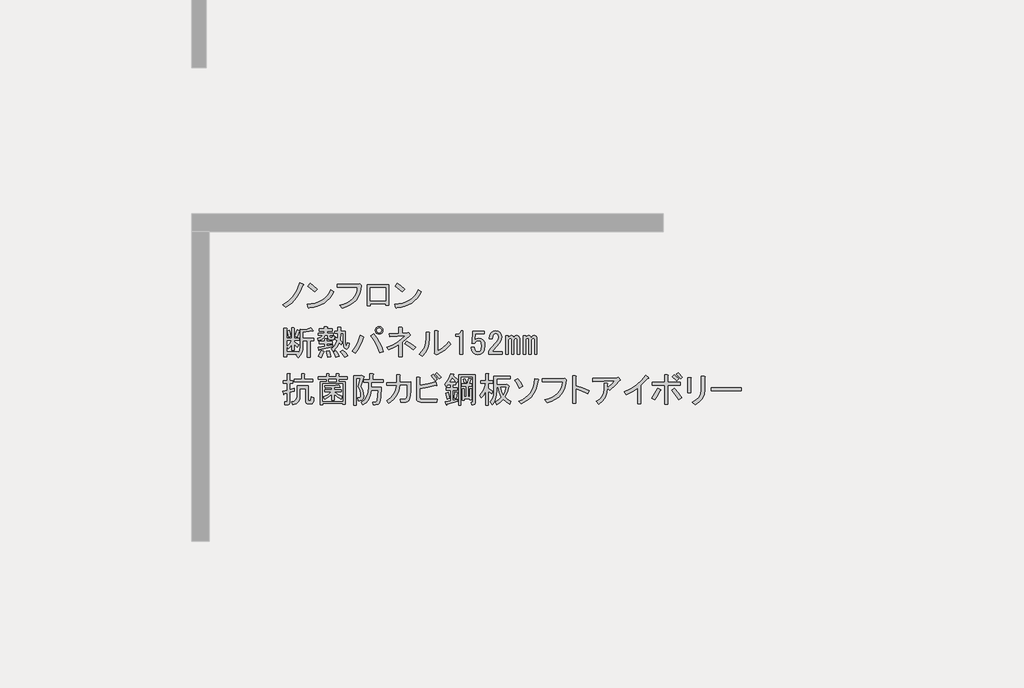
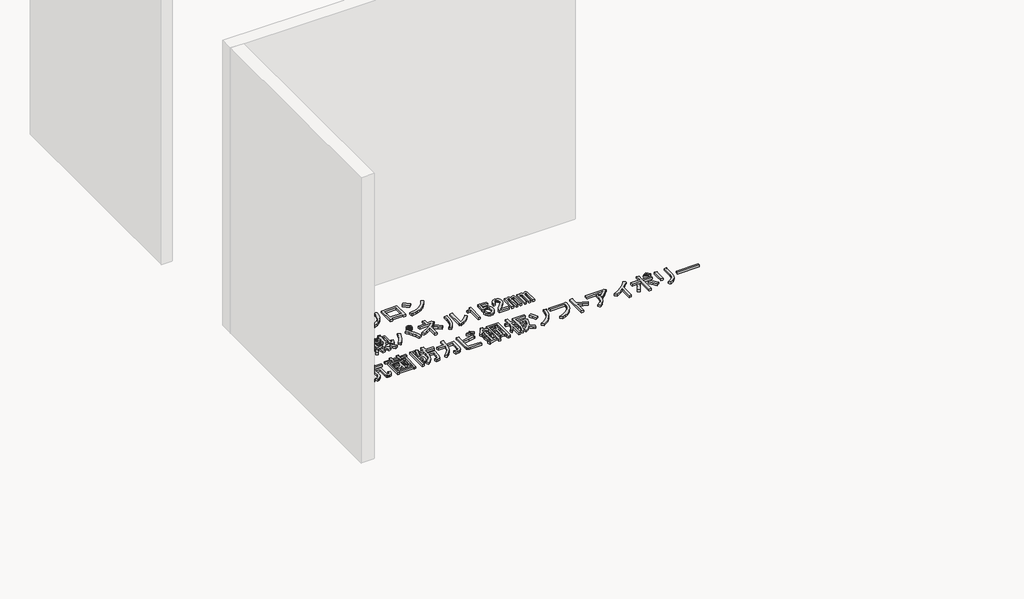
# One storey, part 19 of 117: 1 proxy.
"""IFC4 building model written with IfcOpenShell, lengths in millimetres."""

from ifc_helpers import new_model, si_unit, frame, origin, place, context, project, spatial, polyline, outline, extrude, element, save

model = new_model("IFC4")

# Units and contexts
model_context = context("Model", 3, world=origin())
ifc_project = project(units=[si_unit("LENGTHUNIT", "METRE", prefix="MILLI")], contexts=[model_context])

# Site, building, storey
site = spatial("IfcSite", under=ifc_project)
building = spatial("IfcBuilding", under=site)
storey = spatial("IfcBuildingStorey", under=building, Name="レベル 1", Elevation=500.0)

# Proxy
placement = place(None, origin())
element("IfcBuildingElementProxy", 1, Name="200㎜\u3000MS Pゴシック", ObjectType="200㎜\u3000MS Pゴシック", at=placement, inside=storey, context=model_context, shape_type="SweptSolid", body=[
    extrude(outline(polyline([(-7056.3293015, -12607.0496882), (-7081.9047498, -12666.8215225), (-7110.353844, -12712.7998566), (-7152.0217093, -12758.2034615), (-7201.1610538, -12795.560858), (-7228.7480543, -12773.7211493), (-7181.0455327, -12743.2605029), (-7141.3892195, -12704.7536481), (-7124.0036619, -12680.8305462), (-7108.6296565, -12652.7406577), (-7095.2672031, -12620.4839827), (-7083.9163019, -12584.0605212), (-7052.8809264, -12597.8540214), (-7049.7199159, -12602.4518548), (-7056.3293015, -12607.0496882)])), frame((0.0, 0.0, 500.0), z_axis=(0.0, 0.0, 1.0), x_axis=(1.0, 0.0, 0.0)), (0.0, 0.0, 1.0), 25.0),
    extrude(outline(polyline([(-6956.6022948, -12662.2236891), (-7015.2246708, -12615.0958967), (-6995.6838788, -12590.9572713), (-6968.3842429, -12610.7854279), (-6934.7625862, -12640.3839804), (-6956.6022948, -12662.2236891)])), frame((0.0, 0.0, 500.0), z_axis=(0.0, 0.0, 1.0), x_axis=(1.0, 0.0, 0.0)), (0.0, 0.0, 1.0), 25.0),
    extrude(outline(polyline([(-6794.5286672, -12662.2236891), (-6811.052131, -12691.965924), (-6830.1618761, -12717.9724192), (-6851.8579025, -12740.2431748), (-6876.1402102, -12758.7781907), (-6903.0087992, -12773.577467), (-6932.4636694, -12784.6410036), (-6964.504821, -12791.9688006), (-6999.1322539, -12795.560858), (-7004.8795456, -12803.6070664), (-7010.6268374, -12797.8597747), (-7019.8225042, -12767.9738575), (-6983.9917321, -12765.2977748), (-6951.2142088, -12758.9937141), (-6921.4899342, -12749.0616756), (-6894.8189084, -12735.5016591), (-6871.2011313, -12718.3136646), (-6850.636603, -12697.4976923), (-6833.1253234, -12673.053742), (-6818.6672926, -12644.9818138), (-6794.5286672, -12662.2236891)])), frame((0.0, 0.0, 500.0), z_axis=(0.0, 0.0, 1.0), x_axis=(1.0, 0.0, 0.0)), (0.0, 0.0, 1.0), 25.0),
    extrude(outline(polyline([(-6743.7685864, -12777.1695243), (-6709.985287, -12767.4889298), (-6680.4765359, -12755.1142922), (-6655.242333, -12740.0456116), (-6634.2826783, -12722.282888), (-6617.597572, -12701.8261214), (-6605.1870138, -12678.6753118), (-6597.0510039, -12652.8304591), (-6593.1895423, -12624.2915635), (-6765.6082951, -12624.2915635), (-6765.6082951, -12599.0034798), (-6590.8906256, -12599.0034798), (-6574.7982086, -12595.5551047), (-6562.1541668, -12607.0496882), (-6565.674383, -12643.5449909), (-6573.9361149, -12676.5919185), (-6586.9393625, -12706.1904711), (-6604.6841258, -12732.3406486), (-6627.1704048, -12755.042451), (-6654.3981995, -12774.2958784), (-6686.3675099, -12790.1009308), (-6723.078336, -12802.4576081), (-6743.7685864, -12777.1695243)])), frame((0.0, 0.0, 500.0), z_axis=(0.0, 0.0, 1.0), x_axis=(1.0, 0.0, 0.0)), (0.0, 0.0, 1.0), 25.0),
    extrude(outline(polyline([(-6329.044013, -12776.020066), (-6355.4815551, -12776.020066), (-6355.4815551, -12763.3760241), (-6483.0714321, -12763.3760241), (-6483.0714321, -12781.7673577), (-6509.5089742, -12781.7673577), (-6509.5089742, -12602.4518548), (-6329.044013, -12602.4518548), (-6329.044013, -12776.020066)]), holes=[polyline([(-6483.0714321, -12627.7399386), (-6483.0714321, -12738.0879404), (-6355.4815551, -12738.0879404), (-6355.4815551, -12627.7399386), (-6483.0714321, -12627.7399386)])]), frame((0.0, 0.0, 500.0), z_axis=(0.0, 0.0, 1.0), x_axis=(1.0, 0.0, 0.0)), (0.0, 0.0, 1.0), 25.0),
    extrude(outline(polyline([(-6052.9900951, -12662.2236891), (-6069.5135589, -12691.965924), (-6088.623304, -12717.9724192), (-6110.3193304, -12740.2431748), (-6134.6016381, -12758.7781907), (-6161.4702271, -12773.577467), (-6190.9250974, -12784.6410036), (-6222.9662489, -12791.9688006), (-6257.5936818, -12795.560858), (-6263.3409736, -12803.6070664), (-6269.0882653, -12797.8597747), (-6278.2839321, -12767.9738575), (-6242.4531601, -12765.2977748), (-6209.6756367, -12758.9937141), (-6179.9513622, -12749.0616756), (-6153.2803363, -12735.5016591), (-6129.6625593, -12718.3136646), (-6109.0980309, -12697.4976923), (-6091.5867514, -12673.053742), (-6077.1287205, -12644.9818138), (-6052.9900951, -12662.2236891)])), frame((0.0, 0.0, 500.0), z_axis=(0.0, 0.0, 1.0), x_axis=(1.0, 0.0, 0.0)), (0.0, 0.0, 1.0), 25.0),
    extrude(outline(polyline([(-6215.0637228, -12662.2236891), (-6273.6860987, -12615.0958967), (-6254.1453067, -12590.9572713), (-6226.8456709, -12610.7854279), (-6193.2240141, -12640.3839804), (-6215.0637228, -12662.2236891)])), frame((0.0, 0.0, 500.0), z_axis=(0.0, 0.0, 1.0), x_axis=(1.0, 0.0, 0.0)), (0.0, 0.0, 1.0), 25.0),
    extrude(outline(polyline([(-7122.9978859, -13039.2345221), (-7105.7560106, -12986.3594379), (-7085.0657603, -12992.1067296), (-7083.3415727, -12995.2677401), (-7087.364677, -12997.8540214), (-7104.6065523, -13046.1312722), (-7122.9978859, -13039.2345221)])), frame((0.0, 0.0, 500.0), z_axis=(0.0, 0.0, 1.0), x_axis=(1.0, 0.0, 0.0)), (0.0, 0.0, 1.0), 25.0),
    extrude(outline(polyline([(-6968.9704667, -12990.9572713), (-6970.6946542, -12995.5551047), (-6978.1661335, -12993.256188), (-7055.1798431, -13005.9002299), (-7055.1798431, -13055.326939), (-6963.2231749, -13055.326939), (-6963.2231749, -13077.1666477), (-6994.2585505, -13077.1666477), (-6994.2585505, -13217.4005666), (-7017.2477175, -13217.4005666), (-7017.2477175, -13077.1666477), (-7055.1798431, -13077.1666477), (-7055.1798431, -13126.5933568), (-7057.7661244, -13154.3958807), (-7065.5249683, -13179.1810764), (-7078.4563747, -13200.948944), (-7096.5603438, -13219.6994833), (-7113.8022191, -13200.1586914), (-7103.4570939, -13190.9630245), (-7193.1148454, -13190.9630245), (-7193.1148454, -13212.8027332), (-7216.1040124, -13212.8027332), (-7216.1040124, -12973.715396), (-7194.2643037, -12973.715396), (-7189.3791057, -12976.0143127), (-7193.1148454, -12980.6121461), (-7193.1148454, -13056.4763974), (-7150.5848863, -13056.4763974), (-7150.5848863, -12969.1175626), (-7132.1935527, -12969.1175626), (-7127.3083547, -12971.4164793), (-7131.0440943, -12976.0143127), (-7131.0440943, -13056.4763974), (-7087.364677, -13056.4763974), (-7087.364677, -13074.867731), (-7131.0440943, -13074.867731), (-7131.0440943, -13084.0633978), (-7090.813052, -13110.5009399), (-7104.6065523, -13132.3406486), (-7131.0440943, -13105.9031065), (-7131.0440943, -13158.7781907), (-7150.5848863, -13158.7781907), (-7150.5848863, -13110.5009399), (-7163.8036574, -13130.3290965), (-7178.1718868, -13146.1341488), (-7190.8159287, -13127.7428152), (-7168.97622, -13103.6041898), (-7151.7343447, -13074.867731), (-7193.1148454, -13074.867731), (-7193.1148454, -13169.1233159), (-7095.4108854, -13169.1233159), (-7095.4108854, -13182.9168161), (-7082.479479, -13158.7781907), (-7078.1690102, -13125.4438985), (-7078.1690102, -12980.6121461), (-7056.3293015, -12986.3594379), (-7020.1213634, -12978.8879586), (-6989.660717, -12965.6691875), (-6968.9704667, -12990.9572713)])), frame((0.0, 0.0, 500.0), z_axis=(0.0, 0.0, 1.0), x_axis=(1.0, 0.0, 0.0)), (0.0, 0.0, 1.0), 25.0),
    extrude(outline(polyline([(-7177.0224284, -13047.2807305), (-7189.6664703, -12996.7045631), (-7170.1256783, -12989.8078129), (-7162.3668344, -13013.9464383), (-7157.4816364, -13040.3839804), (-7177.0224284, -13047.2807305)])), frame((0.0, 0.0, 500.0), z_axis=(0.0, 0.0, 1.0), x_axis=(1.0, 0.0, 0.0)), (0.0, 0.0, 1.0), 25.0),
    extrude(outline(polyline([(-6878.1632569, -13167.9738575), (-6874.7148818, -13172.8590555), (-6880.4621736, -13176.020066), (-6890.2325696, -13201.5955143), (-6901.1524239, -13220.8489417), (-6924.141591, -13209.3543582), (-6911.4975491, -13185.790462), (-6901.1524239, -13158.7781907), (-6878.1632569, -13167.9738575)])), frame((0.0, 0.0, 500.0), z_axis=(0.0, 0.0, 1.0), x_axis=(1.0, 0.0, 0.0)), (0.0, 0.0, 1.0), 25.0),
    extrude(outline(polyline([(-6833.3343812, -13163.3760241), (-6823.2766206, -13190.67566), (-6818.3914226, -13212.8027332), (-6847.1278814, -13218.550025), (-6849.7141627, -13196.9976809), (-6857.4730066, -13166.8243992), (-6833.3343812, -13163.3760241)])), frame((0.0, 0.0, 500.0), z_axis=(0.0, 0.0, 1.0), x_axis=(1.0, 0.0, 0.0)), (0.0, 0.0, 1.0), 25.0),
    extrude(outline(polyline([(-6718.388546, -13157.6287323), (-6693.6751914, -13178.8937119), (-6674.7091286, -13203.6070664), (-6701.1466707, -13218.550025), (-6720.4000981, -13188.9514724), (-6739.0787963, -13169.1233159), (-6718.388546, -13157.6287323)])), frame((0.0, 0.0, 500.0), z_axis=(0.0, 0.0, 1.0), x_axis=(1.0, 0.0, 0.0)), (0.0, 0.0, 1.0), 25.0),
    extrude(outline(polyline([(-6777.0109219, -13216.2511083), (-6785.344495, -13191.5377537), (-6798.8506306, -13170.2727742), (-6778.1603803, -13162.2265657), (-6761.2058696, -13183.7789098), (-6749.4239215, -13207.0554415), (-6777.0109219, -13216.2511083)])), frame((0.0, 0.0, 500.0), z_axis=(0.0, 0.0, 1.0), x_axis=(1.0, 0.0, 0.0)), (0.0, 0.0, 1.0), 25.0),
    extrude(outline(polyline([(-6916.0953825, -13153.0308989), (-6918.1069346, -13157.9160969), (-6921.8426743, -13156.479274), (-6927.589966, -13132.3406486), (-6872.4159651, -13124.2944401), (-6872.4159651, -13101.3052731), (-6916.0953825, -13101.3052731), (-6916.0953825, -13082.9139395), (-6872.4159651, -13082.9139395), (-6872.4159651, -13059.9247724), (-6854.0246315, -13059.9247724), (-6849.1394335, -13062.2236891), (-6852.8751732, -13066.8215225), (-6852.8751732, -13082.9139395), (-6808.0462974, -13082.9139395), (-6808.0462974, -13101.3052731), (-6852.8751732, -13101.3052731), (-6852.8751732, -13120.8460651), (-6802.2990057, -13111.6503983), (-6802.2990057, -13127.7428152), (-6916.0953825, -13153.0308989)])), frame((0.0, 0.0, 500.0), z_axis=(0.0, 0.0, 1.0), x_axis=(1.0, 0.0, 0.0)), (0.0, 0.0, 1.0), 25.0),
    extrude(outline(polyline([(-6845.978423, -13031.1883136), (-6871.2665068, -13031.1883136), (-6875.8643402, -13048.6457123), (-6886.2094654, -13061.9363245), (-6902.3018823, -13071.0601502), (-6924.141591, -13076.0171893), (-6928.7394244, -13056.4763974), (-6903.4513406, -13047.8554597), (-6895.9798614, -13040.5276627), (-6891.9567571, -13031.1883136), (-6927.589966, -13031.1883136), (-6927.589966, -13012.79698), (-6873.5654235, -13012.79698), (-6873.5654235, -12995.5551047), (-6917.2448409, -12995.5551047), (-6917.2448409, -12977.1637711), (-6873.5654235, -12977.1637711), (-6873.5654235, -12958.7724374), (-6851.7257148, -12958.7724374), (-6846.8405168, -12961.0713541), (-6850.5762564, -12965.6691875), (-6850.5762564, -12977.1637711), (-6808.0462974, -12977.1637711), (-6808.0462974, -12995.5551047), (-6850.5762564, -12995.5551047), (-6850.5762564, -13012.79698), (-6797.7011723, -13012.79698), (-6797.7011723, -13031.1883136), (-6826.4376311, -13031.1883136), (-6826.4376311, -13043.8323555), (-6825.0008081, -13049.0049181), (-6820.6903393, -13050.7291056), (-6810.3452141, -13050.7291056), (-6806.6094745, -13047.5680951), (-6806.8968391, -13038.0850637), (-6787.3560471, -13040.3839804), (-6790.229693, -13061.9363245), (-6795.5459378, -13067.3244106), (-6803.448464, -13069.1204392), (-6827.5870894, -13069.1204392), (-6841.3805896, -13064.2352412), (-6845.978423, -13049.5796472), (-6845.978423, -13031.1883136)])), frame((0.0, 0.0, 500.0), z_axis=(0.0, 0.0, 1.0), x_axis=(1.0, 0.0, 0.0)), (0.0, 0.0, 1.0), 25.0),
    extrude(outline(polyline([(-6714.9401709, -13013.9464383), (-6736.7798796, -13013.9464383), (-6741.377713, -13071.4193559), (-6721.836921, -13089.8106896), (-6732.1820462, -13111.6503983), (-6748.2744631, -13095.5579813), (-6767.5278905, -13133.2027424), (-6797.7011723, -13165.6749408), (-6814.9430475, -13144.9846905), (-6799.8564067, -13133.0590601), (-6786.7813179, -13117.9724192), (-6775.7177813, -13099.7247679), (-6766.6657967, -13078.316106), (-6783.907672, -13063.3731475), (-6775.8614636, -13046.1312722), (-6762.0679633, -13056.4763974), (-6759.7690466, -13013.9464383), (-6787.3560471, -13013.9464383), (-6787.3560471, -12995.5551047), (-6759.7690466, -12995.5551047), (-6759.7690466, -12961.0713541), (-6737.9293379, -12961.0713541), (-6733.04414, -12963.3702708), (-6736.7798796, -12967.9681043), (-6736.7798796, -12995.5551047), (-6695.3993789, -12995.5551047), (-6695.3993789, -13092.1096063), (-6691.9510039, -13116.2482317), (-6688.7181523, -13118.2597838), (-6685.9163475, -13115.0987733), (-6681.6058787, -13093.2590646), (-6662.0650867, -13100.1558147), (-6666.591079, -13126.9525626), (-6674.421764, -13142.9731384), (-6685.5571418, -13148.2175421), (-6699.9972123, -13142.6857738), (-6706.5347567, -13135.3579768), (-6711.2044313, -13123.719711), (-6714.9401709, -13087.5117729), (-6714.9401709, -13013.9464383)])), frame((0.0, 0.0, 500.0), z_axis=(0.0, 0.0, 1.0), x_axis=(1.0, 0.0, 0.0)), (0.0, 0.0, 1.0), 25.0),
    extrude(outline(polyline([(-6456.3120417, -13016.245355), (-6429.6589762, -13052.9561812), (-6407.1726971, -13090.6727833), (-6388.8532047, -13129.3951616), (-6374.7004987, -13169.1233159), (-6405.7358742, -13179.468441), (-6421.1817208, -13136.3637528), (-6438.7828018, -13097.856898), (-6458.5391173, -13063.9478766), (-6480.4506671, -13034.6366887), (-6456.3120417, -13016.245355)])), frame((0.0, 0.0, 500.0), z_axis=(0.0, 0.0, 1.0), x_axis=(1.0, 0.0, 0.0)), (0.0, 0.0, 1.0), 25.0),
    extrude(outline(polyline([(-6543.6708765, -13042.6828971), (-6539.6477722, -13048.1428243), (-6545.9697932, -13053.0280223), (-6557.8954236, -13088.4457078), (-6572.9820644, -13122.282888), (-6591.2297158, -13154.539563), (-6612.6383776, -13185.2157328), (-6639.0759197, -13167.9738575), (-6615.8712292, -13136.5074351), (-6596.8333252, -13103.0294606), (-6581.9622078, -13067.539934), (-6571.2578769, -13030.0388553), (-6543.6708765, -13042.6828971)])), frame((0.0, 0.0, 500.0), z_axis=(0.0, 0.0, 1.0), x_axis=(1.0, 0.0, 0.0)), (0.0, 0.0, 1.0), 25.0),
    extrude(outline(polyline([(-6410.3337076, -13021.9926468), (-6422.9777495, -13019.6937301), (-6433.3228747, -13012.79698), (-6440.2196248, -13002.4518548), (-6442.5185415, -12989.8078129), (-6440.2196248, -12977.1637711), (-6433.3228747, -12966.8186459), (-6422.9777495, -12959.9218958), (-6410.3337076, -12957.6229791), (-6397.6896657, -12959.9218958), (-6387.3445406, -12966.8186459), (-6380.4477905, -12977.1637711), (-6378.1488738, -12989.8078129), (-6380.4477905, -13002.4518548), (-6387.3445406, -13012.79698), (-6397.6896657, -13019.6937301), (-6410.3337076, -13021.9926468)]), holes=[polyline([(-6410.3337076, -13010.4980633), (-6402.0001346, -13009.0612403), (-6395.390749, -13004.7507715), (-6391.0802802, -12998.141386), (-6389.6434573, -12989.8078129), (-6391.0802802, -12981.4742399), (-6395.390749, -12974.8648544), (-6402.0001346, -12970.5543855), (-6410.3337076, -12969.1175626), (-6418.6672807, -12970.5543855), (-6425.2766662, -12974.8648544), (-6429.587135, -12981.4742399), (-6431.023958, -12989.8078129), (-6429.587135, -12998.141386), (-6425.2766662, -13004.7507715), (-6418.6672807, -13009.0612403), (-6410.3337076, -13010.4980633)])]), frame((0.0, 0.0, 500.0), z_axis=(0.0, 0.0, 1.0), x_axis=(1.0, 0.0, 0.0)), (0.0, 0.0, 1.0), 25.0),
    extrude(outline(polyline([(-6120.6702029, -13155.3298156), (-6157.7402348, -13126.0186277), (-6190.7871624, -13104.7536481), (-6173.5452871, -13082.9139395), (-6134.7510677, -13106.1904711), (-6101.1294109, -13132.3406486), (-6120.6702029, -13155.3298156)])), frame((0.0, 0.0, 500.0), z_axis=(0.0, 0.0, 1.0), x_axis=(1.0, 0.0, 0.0)), (0.0, 0.0, 1.0), 25.0),
    extrude(outline(polyline([(-6166.648537, -13011.6475216), (-6159.7517869, -13009.3486049), (-6147.107745, -13026.5904802), (-6145.9582866, -13032.6251366), (-6151.7055784, -13034.6366887), (-6214.9257878, -13090.9601479), (-6214.9257878, -13211.6532749), (-6241.3633299, -13211.6532749), (-6241.3633299, -13109.3514816), (-6281.5943722, -13133.4901069), (-6326.4232479, -13155.3298156), (-6345.9640399, -13134.6395653), (-6300.4167527, -13115.1706145), (-6259.1799343, -13092.3969709), (-6222.2535848, -13066.3186345), (-6189.637704, -13036.9356054), (-6319.5264978, -13042.6828971), (-6322.9748729, -13017.3948134), (-6241.3633299, -13015.0958967), (-6241.3633299, -12963.3702708), (-6218.3741628, -12963.3702708), (-6212.3395065, -12966.8186459), (-6214.9257878, -12972.5659377), (-6214.9257878, -13013.9464383), (-6166.648537, -13011.6475216)])), frame((0.0, 0.0, 500.0), z_axis=(0.0, 0.0, 1.0), x_axis=(1.0, 0.0, 0.0)), (0.0, 0.0, 1.0), 25.0),
    extrude(outline(polyline([(-6067.703162, -13193.2619413), (-6042.5587606, -13164.0225944), (-6024.5984738, -13131.4785548), (-6013.8223018, -13095.6298225), (-6010.2302444, -13056.4763974), (-6010.2302444, -13004.7507715), (-5986.091619, -13004.7507715), (-5980.3443273, -13008.1991466), (-5983.7927023, -13013.9464383), (-5983.7927023, -13055.326939), (-5987.6002831, -13101.0897496), (-5999.0230255, -13141.82368), (-6018.0609295, -13177.5287301), (-6044.713995, -13208.2048998), (-6067.703162, -13193.2619413)])), frame((0.0, 0.0, 500.0), z_axis=(0.0, 0.0, 1.0), x_axis=(1.0, 0.0, 0.0)), (0.0, 0.0, 1.0), 25.0),
    extrude(outline(polyline([(-5913.6757429, -13162.2265657), (-5888.8905471, -13150.0135708), (-5865.1111275, -13132.9153778), (-5842.3374839, -13110.9319868), (-5820.5696163, -13084.0633978), (-5804.4771994, -13105.9031065), (-5827.753731, -13133.7056304), (-5853.9039086, -13157.3413678), (-5882.9277319, -13176.8103186), (-5914.8252012, -13192.1124829), (-5924.020868, -13196.7103163), (-5942.4122017, -13182.9168161), (-5940.113285, -13177.1695243), (-5940.113285, -12992.1067296), (-5915.9746596, -12992.1067296), (-5910.2273678, -12995.5551047), (-5913.6757429, -13001.3023965), (-5913.6757429, -13162.2265657)])), frame((0.0, 0.0, 500.0), z_axis=(0.0, 0.0, 1.0), x_axis=(1.0, 0.0, 0.0)), (0.0, 0.0, 1.0), 25.0),
    extrude(outline(polyline([(-5725.1645731, -13015.0958967), (-5717.1183647, -13004.1760423), (-5713.6699896, -12992.1067296), (-5699.8764894, -12992.1067296), (-5699.8764894, -13190.9630245), (-5726.3140315, -13190.9630245), (-5726.3140315, -13038.0850637), (-5760.797782, -13038.0850637), (-5760.797782, -13024.2915635), (-5750.4526569, -13024.2915635), (-5736.0844275, -13021.9926468), (-5725.1645731, -13015.0958967)])), frame((0.0, 0.0, 500.0), z_axis=(0.0, 0.0, 1.0), x_axis=(1.0, 0.0, 0.0)), (0.0, 0.0, 1.0), 25.0),
    extrude(outline(polyline([(-5615.9660297, -12995.5551047), (-5517.1126114, -12995.5551047), (-5517.1126114, -13017.3948134), (-5594.126321, -13017.3948134), (-5594.126321, -13020.8431884), (-5597.5746961, -13063.3731475), (-5598.7241544, -13070.2698976), (-5583.2064667, -13059.9247724), (-5566.5393205, -13056.4763974), (-5545.5617056, -13060.212137), (-5528.6071949, -13071.4193559), (-5516.5378822, -13091.2475125), (-5512.514778, -13118.5471484), (-5517.6873406, -13153.0308989), (-5524.1530438, -13166.8243992), (-5533.2050283, -13178.3189827), (-5551.3089974, -13190.3882954), (-5573.4360707, -13194.4113996), (-5594.4136856, -13190.67566), (-5611.3681963, -13179.468441), (-5623.437509, -13160.7897428), (-5629.7595299, -13134.6395653), (-5603.3219878, -13134.6395653), (-5599.2988836, -13153.3182635), (-5591.8274043, -13165.6749408), (-5584.0685604, -13170.8475034), (-5574.585529, -13172.5716909), (-5562.2288517, -13170.5601388), (-5552.7458203, -13164.5254825), (-5543.2627889, -13147.5709718), (-5540.1017785, -13121.9955234), (-5542.6880597, -13097.856898), (-5550.4469036, -13082.9139395), (-5557.9183829, -13077.7413769), (-5566.5393205, -13076.0171893), (-5579.470727, -13078.6034706), (-5590.6779459, -13086.3623145), (-5599.8736128, -13096.7074397), (-5622.8627798, -13096.7074397), (-5621.7133214, -13088.6612312), (-5615.9660297, -13000.1529381), (-5615.9660297, -12995.5551047)])), frame((0.0, 0.0, 500.0), z_axis=(0.0, 0.0, 1.0), x_axis=(1.0, 0.0, 0.0)), (0.0, 0.0, 1.0), 25.0),
    extrude(outline(polyline([(-5478.0310274, -13062.2236891), (-5473.433194, -13030.900949), (-5459.6396938, -13008.1991466), (-5443.2599123, -12996.9919276), (-5424.0064849, -12993.256188), (-5401.3046824, -12996.9919276), (-5383.7754426, -13008.1991466), (-5372.5682236, -13024.8662927), (-5368.832484, -13044.9818138), (-5373.1429528, -13070.8446268), (-5386.0743593, -13093.2590646), (-5419.4086515, -13131.1911902), (-5437.7999851, -13151.8814406), (-5451.5934853, -13170.2727742), (-5365.3841089, -13170.2727742), (-5365.3841089, -13192.1124829), (-5482.6288608, -13192.1124829), (-5482.6288608, -13172.5716909), (-5476.5942045, -13158.7781907), (-5463.0880689, -13140.3868571), (-5415.9602764, -13088.6612312), (-5401.3046824, -13067.3962517), (-5396.4194844, -13044.9818138), (-5398.7184011, -13032.337772), (-5405.6151513, -13021.9926468), (-5413.3739951, -13016.8200842), (-5422.8570265, -13015.0958967), (-5431.4779642, -13016.8200842), (-5438.9494435, -13021.9926468), (-5448.4324749, -13038.3724283), (-5451.5934853, -13062.2236891), (-5478.0310274, -13062.2236891)])), frame((0.0, 0.0, 500.0), z_axis=(0.0, 0.0, 1.0), x_axis=(1.0, 0.0, 0.0)), (0.0, 0.0, 1.0), 25.0),
    extrude(outline(polyline([(-5094.1119379, -13032.337772), (-5085.7783648, -13033.7745949), (-5079.1689793, -13038.0850637), (-5073.9964167, -13046.7060014), (-5072.2722292, -13058.7753141), (-5072.2722292, -13193.2619413), (-5091.8130212, -13193.2619413), (-5091.8130212, -13069.1204392), (-5094.3993024, -13059.6374078), (-5102.1581463, -13056.4763974), (-5112.5032715, -13061.0742308), (-5118.5379278, -13069.6951684), (-5120.54948, -13079.4655644), (-5120.54948, -13193.2619413), (-5140.0902719, -13193.2619413), (-5140.0902719, -13069.1204392), (-5142.6765532, -13059.6374078), (-5150.4353971, -13056.4763974), (-5160.7805223, -13061.0742308), (-5166.8151786, -13069.6951684), (-5168.8267307, -13079.4655644), (-5168.8267307, -13193.2619413), (-5188.3675227, -13193.2619413), (-5188.3675227, -13035.786147), (-5168.8267307, -13035.786147), (-5168.8267307, -13053.0280223), (-5156.757418, -13037.5103346), (-5143.538647, -13032.337772), (-5134.3429802, -13033.7745949), (-5127.4462301, -13038.0850637), (-5120.54948, -13051.878564), (-5107.6180735, -13037.22297), (-5094.1119379, -13032.337772)])), frame((0.0, 0.0, 500.0), z_axis=(0.0, 0.0, 1.0), x_axis=(1.0, 0.0, 0.0)), (0.0, 0.0, 1.0), 25.0),
    extrude(outline(polyline([(-5315.9573998, -13193.2619413), (-5335.4981918, -13193.2619413), (-5335.4981918, -13035.786147), (-5315.9573998, -13035.786147), (-5315.9573998, -13053.0280223), (-5303.8880871, -13037.5103346), (-5290.6693161, -13032.337772), (-5281.4736492, -13033.7745949), (-5274.5768991, -13038.0850637), (-5267.680149, -13051.878564), (-5254.7487426, -13037.22297), (-5241.2426069, -13032.337772), (-5232.9090339, -13033.7745949), (-5226.2996483, -13038.0850637), (-5221.1270858, -13046.7060014), (-5219.4028982, -13058.7753141), (-5219.4028982, -13193.2619413), (-5238.9436902, -13193.2619413), (-5238.9436902, -13069.1204392), (-5241.5299715, -13059.6374078), (-5249.2888154, -13056.4763974), (-5259.6339406, -13061.0742308), (-5265.6685969, -13069.6951684), (-5267.680149, -13079.4655644), (-5267.680149, -13193.2619413), (-5287.220941, -13193.2619413), (-5287.220941, -13069.1204392), (-5289.8072223, -13059.6374078), (-5297.5660662, -13056.4763974), (-5307.9111913, -13061.0742308), (-5313.9458477, -13069.6951684), (-5315.9573998, -13079.4655644), (-5315.9573998, -13193.2619413)])), frame((0.0, 0.0, 500.0), z_axis=(0.0, 0.0, 1.0), x_axis=(1.0, 0.0, 0.0)), (0.0, 0.0, 1.0), 25.0),
    extrude(outline(polyline([(-7010.3509674, -13461.0742308), (-7010.3509674, -13577.1695243), (-7008.3394153, -13584.0662744), (-7002.3047589, -13586.3651911), (-6995.4080088, -13586.3651911), (-6990.8101754, -13584.0662744), (-6988.5112587, -13577.1695243), (-6986.212342, -13554.1803573), (-6962.0737166, -13562.2265657), (-6964.3726333, -13585.2157328), (-6966.67155, -13596.7821575), (-6971.2693834, -13605.0438894), (-6978.1661335, -13610.0009285), (-6987.3618003, -13611.6532749), (-7009.201509, -13611.6532749), (-7019.7621576, -13610.3601342), (-7027.3054781, -13606.4807123), (-7031.8314703, -13600.0150091), (-7033.3401344, -13590.9630245), (-7033.3401344, -13482.9139395), (-7080.4679269, -13482.9139395), (-7080.4679269, -13548.4330655), (-7084.2036665, -13573.2901024), (-7095.4108854, -13593.8366704), (-7114.0895837, -13610.0727697), (-7140.2397612, -13621.9984001), (-7149.435428, -13596.7103163), (-7129.3199068, -13589.238837), (-7114.9516774, -13578.3189827), (-7106.3307398, -13563.9507533), (-7103.4570939, -13546.1341488), (-7103.4570939, -13461.0742308), (-7010.3509674, -13461.0742308)])), frame((0.0, 0.0, 500.0), z_axis=(0.0, 0.0, 1.0), x_axis=(1.0, 0.0, 0.0)), (0.0, 0.0, 1.0), 25.0),
    extrude(outline(polyline([(-7212.6556373, -13527.7428152), (-7216.1040124, -13533.7774715), (-7219.5523875, -13528.8922735), (-7227.5985959, -13505.9031065), (-7189.6664703, -13497.856898), (-7189.6664703, -13438.0850637), (-7223.0007625, -13438.0850637), (-7223.0007625, -13416.245355), (-7189.6664703, -13416.245355), (-7189.6664703, -13356.4735207), (-7167.8267616, -13356.4735207), (-7162.9415636, -13358.7724374), (-7166.6773033, -13363.3702708), (-7166.6773033, -13416.245355), (-7140.2397612, -13416.245355), (-7140.2397612, -13438.0850637), (-7166.6773033, -13438.0850637), (-7166.6773033, -13492.1096063), (-7131.0440943, -13481.7644811), (-7128.7451776, -13503.6041898), (-7166.6773033, -13515.0987733), (-7166.6773033, -13603.6070664), (-7170.4130429, -13615.6763791), (-7181.6202618, -13619.6994833), (-7208.0578039, -13619.6994833), (-7211.506179, -13594.4113996), (-7194.2643037, -13594.4113996), (-7190.8159287, -13593.2619413), (-7189.6664703, -13589.8135662), (-7189.6664703, -13520.8460651), (-7212.6556373, -13527.7428152)])), frame((0.0, 0.0, 500.0), z_axis=(0.0, 0.0, 1.0), x_axis=(1.0, 0.0, 0.0)), (0.0, 0.0, 1.0), 25.0),
    extrude(outline(polyline([(-7066.6744266, -13403.6013132), (-7066.6744266, -13357.6229791), (-7044.8347179, -13357.6229791), (-7039.9495199, -13359.9218958), (-7043.6852596, -13364.5197292), (-7043.6852596, -13403.6013132), (-6972.4188418, -13403.6013132), (-6972.4188418, -13425.4410219), (-7128.7451776, -13425.4410219), (-7128.7451776, -13403.6013132), (-7066.6744266, -13403.6013132)])), frame((0.0, 0.0, 500.0), z_axis=(0.0, 0.0, 1.0), x_axis=(1.0, 0.0, 0.0)), (0.0, 0.0, 1.0), 25.0),
    extrude(outline(polyline([(-6751.7228382, -13423.1421052), (-6696.5488373, -13423.1421052), (-6696.5488373, -13617.4005666), (-6716.0896293, -13617.4005666), (-6716.0896293, -13608.2048998), (-6888.5083821, -13608.2048998), (-6888.5083821, -13621.9984001), (-6908.0491741, -13621.9984001), (-6908.0491741, -13423.1421052), (-6855.1740899, -13423.1421052), (-6855.1740899, -13402.4518548), (-6925.2910493, -13402.4518548), (-6925.2910493, -13384.0605212), (-6855.1740899, -13384.0605212), (-6855.1740899, -13357.6229791), (-6836.7827562, -13357.6229791), (-6831.8975582, -13359.9218958), (-6835.6332979, -13364.5197292), (-6835.6332979, -13384.0605212), (-6771.2636302, -13384.0605212), (-6771.2636302, -13357.6229791), (-6752.8722965, -13357.6229791), (-6747.9870985, -13359.9218958), (-6751.7228382, -13364.5197292), (-6751.7228382, -13384.0605212), (-6678.1575036, -13384.0605212), (-6678.1575036, -13402.4518548), (-6751.7228382, -13402.4518548), (-6751.7228382, -13423.1421052)]), holes=[polyline([(-6888.5083821, -13441.5334388), (-6888.5083821, -13589.8135662), (-6716.0896293, -13589.8135662), (-6716.0896293, -13441.5334388), (-6888.5083821, -13441.5334388)]), polyline([(-6835.6332979, -13423.1421052), (-6771.2636302, -13423.1421052), (-6771.2636302, -13402.4518548), (-6835.6332979, -13402.4518548), (-6835.6332979, -13423.1421052)])]), frame((0.0, 0.0, 500.0), z_axis=(0.0, 0.0, 1.0), x_axis=(1.0, 0.0, 0.0)), (0.0, 0.0, 1.0), 25.0),
    extrude(outline(polyline([(-6870.1170484, -13461.0742308), (-6804.0231932, -13457.3384911), (-6752.8722965, -13450.7291056), (-6742.5271714, -13464.5226058), (-6740.2282547, -13470.5572622), (-6747.1250048, -13470.2698976), (-6791.9538805, -13473.7182726), (-6791.9538805, -13490.9601479), (-6732.1820462, -13490.9601479), (-6732.1820462, -13509.3514816), (-6788.5055054, -13509.3514816), (-6757.1827653, -13533.7774715), (-6720.6874627, -13549.5825239), (-6728.7336711, -13571.4222326), (-6761.2058696, -13555.9045448), (-6791.9538805, -13530.0417319), (-6791.9538805, -13580.6178994), (-6811.4946725, -13580.6178994), (-6811.4946725, -13531.1911902), (-6836.4953916, -13553.8929927), (-6872.4159651, -13573.7211493), (-6881.611632, -13554.1803573), (-6842.8174126, -13534.3522007), (-6813.7935892, -13509.3514816), (-6871.2665068, -13509.3514816), (-6871.2665068, -13490.9601479), (-6811.4946725, -13490.9601479), (-6811.4946725, -13476.0171893), (-6865.519215, -13478.316106), (-6870.1170484, -13461.0742308)])), frame((0.0, 0.0, 500.0), z_axis=(0.0, 0.0, 1.0), x_axis=(1.0, 0.0, 0.0)), (0.0, 0.0, 1.0), 25.0),
    extrude(outline(polyline([(-6475.8528337, -13495.5579813), (-6483.0369484, -13538.7345107), (-6497.6925424, -13574.0085139), (-6519.8196156, -13601.3799909), (-6549.4181682, -13620.8489417), (-6560.9127517, -13597.8597747), (-6533.2539101, -13578.0316181), (-6513.4975947, -13549.5825239), (-6501.6438055, -13512.512492), (-6497.6925424, -13466.8215225), (-6497.6925424, -13428.8893969), (-6541.3719597, -13428.8893969), (-6541.3719597, -13407.0496882), (-6488.4968756, -13407.0496882), (-6488.4968756, -13358.7724374), (-6463.2087918, -13358.7724374), (-6457.1741355, -13362.2208125), (-6462.0593335, -13367.9681043), (-6462.0593335, -13407.0496882), (-6373.5510404, -13407.0496882), (-6373.5510404, -13428.8893969), (-6474.7033753, -13428.8893969), (-6474.7033753, -13473.7182726), (-6391.942374, -13473.7182726), (-6397.6896657, -13555.9045448), (-6405.7358742, -13600.1586914), (-6410.6210722, -13608.7077879), (-6418.3799161, -13614.8142854), (-6442.5185415, -13619.6994833), (-6460.9098751, -13619.6994833), (-6464.3582502, -13597.8597747), (-6447.1163749, -13597.8597747), (-6434.7596976, -13594.6987642), (-6427.5755829, -13585.2157328), (-6418.3799161, -13495.5579813), (-6475.8528337, -13495.5579813)])), frame((0.0, 0.0, 500.0), z_axis=(0.0, 0.0, 1.0), x_axis=(1.0, 0.0, 0.0)), (0.0, 0.0, 1.0), 25.0),
    extrude(outline(polyline([(-6542.5214181, -13520.8460651), (-6540.5817071, -13548.5049067), (-6545.1076994, -13568.2612221), (-6556.0993949, -13580.1150114), (-6573.5567936, -13584.0662744), (-6587.3502938, -13584.0662744), (-6591.9481272, -13562.2265657), (-6580.4535437, -13562.2265657), (-6572.1199707, -13560.0713313), (-6566.6600435, -13553.6056281), (-6564.0737622, -13542.8294561), (-6564.3611268, -13527.7428152), (-6571.2578769, -13500.7305439), (-6587.3502938, -13465.6720642), (-6568.9589602, -13394.4056463), (-6603.4427108, -13394.4056463), (-6603.4427108, -13623.1478584), (-6626.4318778, -13623.1478584), (-6626.4318778, -13372.5659377), (-6562.0622101, -13372.5659377), (-6559.7632934, -13367.9681043), (-6535.624668, -13380.6121461), (-6534.187845, -13384.3478858), (-6539.073043, -13386.3594379), (-6565.5105851, -13464.5226058), (-6549.9928974, -13496.9948043), (-6542.5214181, -13520.8460651)])), frame((0.0, 0.0, 500.0), z_axis=(0.0, 0.0, 1.0), x_axis=(1.0, 0.0, 0.0)), (0.0, 0.0, 1.0), 25.0),
    extrude(outline(polyline([(-6170.096912, -13450.7291056), (-6235.6160381, -13453.0280223), (-6243.87777, -13499.293721), (-6261.7662156, -13540.3868571), (-6289.2813749, -13576.3074306), (-6326.4232479, -13607.0554415), (-6345.9640399, -13587.5146495), (-6310.9774013, -13559.2810787), (-6285.3301118, -13527.4554506), (-6269.0221715, -13492.0377651), (-6262.0535802, -13453.0280223), (-6343.6651232, -13455.326939), (-6345.9640399, -13432.337772), (-6260.9041219, -13430.0388553), (-6260.9041219, -13365.6691875), (-6236.7654965, -13365.6691875), (-6229.8687463, -13369.1175626), (-6234.4665798, -13374.8648544), (-6234.4665798, -13430.0388553), (-6143.6593699, -13426.5904802), (-6143.6593699, -13497.856898), (-6146.2456512, -13545.8467842), (-6154.0044951, -13577.1695243), (-6160.6138806, -13587.2272849), (-6170.096912, -13594.4113996), (-6182.4535893, -13598.7218684), (-6197.6839125, -13600.1586914), (-6225.2709129, -13600.1586914), (-6228.719288, -13571.4222326), (-6198.8333708, -13573.7211493), (-6184.752506, -13570.8475034), (-6176.9936622, -13562.2265657), (-6171.8210996, -13536.938482), (-6170.096912, -13497.856898), (-6170.096912, -13450.7291056)])), frame((0.0, 0.0, 500.0), z_axis=(0.0, 0.0, 1.0), x_axis=(1.0, 0.0, 0.0)), (0.0, 0.0, 1.0), 25.0),
    extrude(outline(polyline([(-5900.066156, -13399.0034798), (-5935.6993649, -13359.9218958), (-5921.9058647, -13347.2778539), (-5885.1231974, -13386.3594379), (-5900.066156, -13399.0034798)])), frame((0.0, 0.0, 500.0), z_axis=(0.0, 0.0, 1.0), x_axis=(1.0, 0.0, 0.0)), (0.0, 0.0, 1.0), 25.0),
    extrude(outline(polyline([(-5919.606948, -13453.0280223), (-5919.3195834, -13459.0626787), (-5929.9520731, -13456.4763974), (-5996.0459284, -13471.7067205), (-6065.5881587, -13482.9139395), (-6065.5881587, -13557.6287323), (-6061.852419, -13568.8359513), (-6050.6452001, -13572.5716909), (-5918.4574896, -13572.5716909), (-5920.7564063, -13597.8597747), (-6055.2430335, -13597.8597747), (-6071.3354504, -13595.9919048), (-6082.830034, -13590.3882954), (-6089.7267841, -13581.0489463), (-6092.0257008, -13567.9738575), (-6092.0257008, -13387.5088962), (-6069.0365337, -13387.5088962), (-6061.852419, -13390.9572713), (-6065.5881587, -13396.7045631), (-6065.5881587, -13455.326939), (-5992.3101887, -13443.5449909), (-5928.8026148, -13426.5904802), (-5919.606948, -13453.0280223)])), frame((0.0, 0.0, 500.0), z_axis=(0.0, 0.0, 1.0), x_axis=(1.0, 0.0, 0.0)), (0.0, 0.0, 1.0), 25.0),
    extrude(outline(polyline([(-5933.4004482, -13415.0958967), (-5969.0336571, -13374.8648544), (-5952.9412402, -13362.2208125), (-5917.3080313, -13402.4518548), (-5933.4004482, -13415.0958967)])), frame((0.0, 0.0, 500.0), z_axis=(0.0, 0.0, 1.0), x_axis=(1.0, 0.0, 0.0)), (0.0, 0.0, 1.0), 25.0),
    extrude(outline(polyline([(-5735.5096983, -13365.6691875), (-5595.2757793, -13365.6691875), (-5595.2757793, -13605.9059831), (-5599.011519, -13617.1132021), (-5610.2187379, -13620.8489417), (-5626.3111549, -13620.8489417), (-5630.9089883, -13599.009233), (-5619.4144047, -13599.009233), (-5615.9660297, -13597.8597747), (-5614.8165713, -13594.4113996), (-5614.8165713, -13384.0605212), (-5715.9689063, -13384.0605212), (-5715.9689063, -13623.1478584), (-5735.5096983, -13623.1478584), (-5735.5096983, -13365.6691875)])), frame((0.0, 0.0, 500.0), z_axis=(0.0, 0.0, 1.0), x_axis=(1.0, 0.0, 0.0)), (0.0, 0.0, 1.0), 25.0),
    extrude(outline(polyline([(-5747.0042818, -13513.949315), (-5744.4180005, -13517.1103254), (-5748.1537402, -13519.6966067), (-5756.1999486, -13566.8243992), (-5774.5912823, -13564.5254825), (-5768.8439905, -13510.5009399), (-5747.0042818, -13513.949315)])), frame((0.0, 0.0, 500.0), z_axis=(0.0, 0.0, 1.0), x_axis=(1.0, 0.0, 0.0)), (0.0, 0.0, 1.0), 25.0),
    extrude(outline(polyline([(-5824.0179914, -13515.0987733), (-5812.5234079, -13566.8243992), (-5833.2136582, -13572.5716909), (-5844.7082417, -13520.8460651), (-5824.0179914, -13515.0987733)])), frame((0.0, 0.0, 500.0), z_axis=(0.0, 0.0, 1.0), x_axis=(1.0, 0.0, 0.0)), (0.0, 0.0, 1.0), 25.0),
    extrude(outline(polyline([(-5682.6346141, -13397.8540214), (-5675.4504994, -13413.0843446), (-5669.9905722, -13433.4872303), (-5687.2324475, -13439.2345221), (-5698.727031, -13402.4518548), (-5682.6346141, -13397.8540214)])), frame((0.0, 0.0, 500.0), z_axis=(0.0, 0.0, 1.0), x_axis=(1.0, 0.0, 0.0)), (0.0, 0.0, 1.0), 25.0),
    extrude(outline(polyline([(-5629.7595299, -13399.0034798), (-5627.1732486, -13402.4518548), (-5633.207905, -13405.9002299), (-5645.8519468, -13443.8323555), (-5625.1616965, -13443.8323555), (-5625.1616965, -13462.2236891), (-5656.197072, -13462.2236891), (-5656.197072, -13550.7319822), (-5641.2541134, -13550.7319822), (-5641.2541134, -13482.9139395), (-5625.1616965, -13482.9139395), (-5625.1616965, -13577.1695243), (-5641.2541134, -13577.1695243), (-5641.2541134, -13569.1233159), (-5687.2324475, -13569.1233159), (-5687.2324475, -13581.7673577), (-5703.3248644, -13581.7673577), (-5703.3248644, -13485.2128562), (-5687.2324475, -13485.2128562), (-5687.2324475, -13550.7319822), (-5672.2894889, -13550.7319822), (-5672.2894889, -13462.2236891), (-5707.9226978, -13462.2236891), (-5707.9226978, -13443.8323555), (-5661.9443638, -13443.8323555), (-5651.5992386, -13394.4056463), (-5629.7595299, -13399.0034798)])), frame((0.0, 0.0, 500.0), z_axis=(0.0, 0.0, 1.0), x_axis=(1.0, 0.0, 0.0)), (0.0, 0.0, 1.0), 25.0),
    extrude(outline(polyline([(-5750.4526569, -13434.6366887), (-5791.8331575, -13390.9572713), (-5813.6728662, -13430.0388553), (-5758.4988653, -13430.0388553), (-5758.4988653, -13448.4301889), (-5784.9364074, -13448.4301889), (-5784.9364074, -13477.1666477), (-5747.0042818, -13477.1666477), (-5747.0042818, -13495.5579813), (-5784.9364074, -13495.5579813), (-5784.9364074, -13582.9168161), (-5745.8548235, -13572.5716909), (-5743.5559068, -13592.1124829), (-5835.5125749, -13617.4005666), (-5837.8114916, -13623.1478584), (-5842.409325, -13619.6994833), (-5849.3060752, -13596.7103163), (-5804.4771994, -13587.5146495), (-5804.4771994, -13495.5579813), (-5842.409325, -13495.5579813), (-5842.409325, -13477.1666477), (-5804.4771994, -13477.1666477), (-5804.4771994, -13448.4301889), (-5826.3169081, -13448.4301889), (-5841.2598667, -13466.8215225), (-5853.9039086, -13446.1312722), (-5825.7421789, -13408.4865112), (-5801.0288244, -13357.6229791), (-5779.1891157, -13363.3702708), (-5775.7407406, -13367.1060105), (-5781.4880324, -13369.1175626), (-5782.6374907, -13372.5659377), (-5737.808615, -13410.4980633), (-5750.4526569, -13434.6366887)])), frame((0.0, 0.0, 500.0), z_axis=(0.0, 0.0, 1.0), x_axis=(1.0, 0.0, 0.0)), (0.0, 0.0, 1.0), 25.0),
    extrude(outline(polyline([(-5424.0064849, -13594.4113996), (-5395.2700261, -13577.1695243), (-5373.4303174, -13555.3298156), (-5391.2469219, -13513.3745858), (-5401.0173179, -13472.5688143), (-5413.6613597, -13472.5688143), (-5413.6613597, -13496.7074397), (-5416.1039587, -13538.4471461), (-5423.4317557, -13572.8590555), (-5435.6447507, -13599.9431679), (-5452.7429437, -13619.6994833), (-5466.5364439, -13596.7103163), (-5453.4613552, -13579.3247587), (-5444.1220061, -13557.0540032), (-5438.5183966, -13529.8980496), (-5436.6505268, -13497.856898), (-5436.6505268, -13377.1637711), (-5299.8649829, -13377.1637711), (-5299.8649829, -13399.0034798), (-5413.6613597, -13399.0034798), (-5413.6613597, -13450.7291056), (-5334.3487334, -13450.7291056), (-5328.6014417, -13444.9818138), (-5309.0606497, -13458.7753141), (-5307.6238268, -13462.5110537), (-5312.5090247, -13466.8215225), (-5324.865702, -13513.3745858), (-5343.5444003, -13554.1803573), (-5324.5783374, -13572.5716909), (-5292.9682328, -13590.9630245), (-5302.1638996, -13615.1016499), (-5330.0382646, -13599.009233), (-5358.4873588, -13573.7211493), (-5382.9133488, -13598.1471392), (-5414.8108181, -13618.550025), (-5424.0064849, -13594.4113996)]), holes=[polyline([(-5379.1776092, -13472.5688143), (-5371.1314007, -13505.6157419), (-5358.4873588, -13533.4901069), (-5345.843317, -13507.3399294), (-5337.7971085, -13472.5688143), (-5379.1776092, -13472.5688143)])]), frame((0.0, 0.0, 500.0), z_axis=(0.0, 0.0, 1.0), x_axis=(1.0, 0.0, 0.0)), (0.0, 0.0, 1.0), 25.0),
    extrude(outline(polyline([(-5506.7674862, -13623.1478584), (-5506.7674862, -13503.6041898), (-5524.5840907, -13537.8005758), (-5543.5501535, -13559.927649), (-5555.044737, -13539.2373987), (-5537.8028617, -13516.5355963), (-5524.0093615, -13492.1096063), (-5513.6642364, -13465.9594288), (-5506.7674862, -13438.0850637), (-5548.1479869, -13438.0850637), (-5548.1479869, -13416.245355), (-5506.7674862, -13416.245355), (-5506.7674862, -13356.4735207), (-5484.9277776, -13356.4735207), (-5480.0425796, -13358.7724374), (-5483.7783192, -13363.3702708), (-5483.7783192, -13416.245355), (-5445.8461936, -13416.245355), (-5445.8461936, -13438.0850637), (-5483.7783192, -13438.0850637), (-5483.7783192, -13478.316106), (-5445.8461936, -13504.7536481), (-5456.1913188, -13527.7428152), (-5483.7783192, -13504.7536481), (-5483.7783192, -13623.1478584), (-5506.7674862, -13623.1478584)])), frame((0.0, 0.0, 500.0), z_axis=(0.0, 0.0, 1.0), x_axis=(1.0, 0.0, 0.0)), (0.0, 0.0, 1.0), 25.0),
    extrude(outline(polyline([(-5126.2967717, -13517.39769), (-5114.1556179, -13496.5637574), (-5104.1696984, -13469.6951684), (-5096.3390134, -13436.7919231), (-5090.6635628, -13397.8540214), (-5061.927104, -13402.4518548), (-5057.041906, -13406.1875945), (-5063.0765624, -13412.79698), (-5068.3209661, -13448.1428243), (-5077.1574272, -13480.6150228), (-5089.5859456, -13510.2135753), (-5105.6065214, -13536.938482), (-5121.6989383, -13555.9045448), (-5143.538647, -13574.8706076), (-5204.4599397, -13612.8027332), (-5225.15019, -13592.1124829), (-5194.4021791, -13576.2355894), (-5167.6772724, -13558.4908261), (-5144.9754699, -13538.878193), (-5126.2967717, -13517.39769)])), frame((0.0, 0.0, 500.0), z_axis=(0.0, 0.0, 1.0), x_axis=(1.0, 0.0, 0.0)), (0.0, 0.0, 1.0), 25.0),
    extrude(outline(polyline([(-5220.5523566, -13479.4655644), (-5240.9552423, -13440.0966158), (-5260.7833989, -13411.6475216), (-5235.4953152, -13397.8540214), (-5215.379794, -13426.5904802), (-5194.1148145, -13464.5226058), (-5220.5523566, -13479.4655644)])), frame((0.0, 0.0, 500.0), z_axis=(0.0, 0.0, 1.0), x_axis=(1.0, 0.0, 0.0)), (0.0, 0.0, 1.0), 25.0),
    extrude(outline(polyline([(-5004.6840781, -13577.1695243), (-4970.9007787, -13567.4889298), (-4941.3920276, -13555.1142922), (-4916.1578247, -13540.0456116), (-4895.19817, -13522.282888), (-4878.5130636, -13501.8261214), (-4866.1025055, -13478.6753118), (-4857.9664956, -13452.8304591), (-4854.105034, -13424.2915635), (-5026.5237868, -13424.2915635), (-5026.5237868, -13399.0034798), (-4851.8061172, -13399.0034798), (-4835.7137003, -13395.5551047), (-4823.0696584, -13407.0496882), (-4826.5898746, -13443.5449909), (-4834.8516066, -13476.5919185), (-4847.8548542, -13506.1904711), (-4865.5996175, -13532.3406486), (-4888.0858965, -13555.042451), (-4915.3136912, -13574.2958784), (-4947.2830016, -13590.1009308), (-4983.9938277, -13602.4576081), (-5004.6840781, -13577.1695243)])), frame((0.0, 0.0, 500.0), z_axis=(0.0, 0.0, 1.0), x_axis=(1.0, 0.0, 0.0)), (0.0, 0.0, 1.0), 25.0),
    extrude(outline(polyline([(-4742.8374655, -13457.6258557), (-4686.2266416, -13476.5919185), (-4629.0410886, -13501.3052731), (-4642.8345888, -13527.7428152), (-4698.2959543, -13501.8800023), (-4742.8374655, -13486.3623145), (-4742.8374655, -13605.9059831), (-4769.2750076, -13605.9059831), (-4769.2750076, -13376.0143127), (-4746.2858405, -13376.0143127), (-4738.5269967, -13378.8879586), (-4742.8374655, -13385.2099795), (-4742.8374655, -13457.6258557)])), frame((0.0, 0.0, 500.0), z_axis=(0.0, 0.0, 1.0), x_axis=(1.0, 0.0, 0.0)), (0.0, 0.0, 1.0), 25.0),
    extrude(outline(polyline([(-4474.5538861, -13478.316106), (-4478.3614669, -13519.5529244), (-4492.083126, -13555.9045448), (-4515.7188633, -13587.3709672), (-4549.268679, -13613.9521916), (-4568.809471, -13592.1124829), (-4539.1390773, -13571.8532794), (-4517.9459389, -13547.8583363), (-4505.2300559, -13520.1276536), (-4500.9914282, -13488.6612312), (-4500.9914282, -13439.2345221), (-4476.8528028, -13439.2345221), (-4471.1055111, -13441.8208034), (-4474.5538861, -13447.2807305), (-4474.5538861, -13477.1666477), (-4438.0585834, -13446.4186368), (-4411.3336767, -13416.245355), (-4598.6953881, -13423.1421052), (-4600.9943048, -13396.7045631), (-4391.7928848, -13390.9572713), (-4383.7466763, -13388.6583546), (-4366.504801, -13409.3486049), (-4366.2174364, -13412.5096154), (-4372.2520928, -13412.79698), (-4410.1842184, -13456.1890328), (-4455.0130941, -13496.7074397), (-4474.5538861, -13478.316106)])), frame((0.0, 0.0, 500.0), z_axis=(0.0, 0.0, 1.0), x_axis=(1.0, 0.0, 0.0)), (0.0, 0.0, 1.0), 25.0),
    extrude(outline(polyline([(-4332.7107255, -13511.6503983), (-4276.0280605, -13483.7760332), (-4226.6731925, -13450.7291056), (-4184.6461215, -13412.5096154), (-4149.9468475, -13369.1175626), (-4128.1071388, -13387.5088962), (-4125.5208575, -13393.5435526), (-4136.1533473, -13397.8540214), (-4161.1540664, -13426.8778448), (-4192.4768065, -13456.4763974), (-4192.4768065, -13612.8027332), (-4218.9143486, -13612.8027332), (-4218.9143486, -13478.316106), (-4262.593766, -13507.9146586), (-4313.1699335, -13534.6395653), (-4332.7107255, -13511.6503983)])), frame((0.0, 0.0, 500.0), z_axis=(0.0, 0.0, 1.0), x_axis=(1.0, 0.0, 0.0)), (0.0, 0.0, 1.0), 25.0),
    extrude(outline(polyline([(-3908.6525502, -13478.316106), (-3872.4446121, -13520.2713359), (-3846.5817992, -13558.7781907), (-3871.869883, -13576.020066), (-3898.5947896, -13534.9269299), (-3930.4922589, -13496.7074397), (-3908.6525502, -13478.316106)])), frame((0.0, 0.0, 500.0), z_axis=(0.0, 0.0, 1.0), x_axis=(1.0, 0.0, 0.0)), (0.0, 0.0, 1.0), 25.0),
    extrude(outline(polyline([(-3963.8265511, -13428.8893969), (-3858.0763827, -13428.8893969), (-3858.0763827, -13454.1774807), (-3963.8265511, -13454.1774807), (-3963.8265511, -13613.9521916), (-3990.2640932, -13613.9521916), (-3990.2640932, -13454.1774807), (-4093.7153449, -13454.1774807), (-4093.7153449, -13428.8893969), (-3990.2640932, -13428.8893969), (-3990.2640932, -13364.5197292), (-3966.1254678, -13364.5197292), (-3959.2287177, -13367.9681043), (-3963.8265511, -13373.715396), (-3963.8265511, -13428.8893969)])), frame((0.0, 0.0, 500.0), z_axis=(0.0, 0.0, 1.0), x_axis=(1.0, 0.0, 0.0)), (0.0, 0.0, 1.0), 25.0),
    extrude(outline(polyline([(-4024.7478438, -13492.1096063), (-4022.4489271, -13496.9948043), (-4029.3456772, -13500.1558147), (-4048.8864692, -13538.9500341), (-4073.0250946, -13579.468441), (-4098.3131783, -13565.6749408), (-4071.8756362, -13523.1449818), (-4050.0359275, -13478.316106), (-4024.7478438, -13492.1096063)])), frame((0.0, 0.0, 500.0), z_axis=(0.0, 0.0, 1.0), x_axis=(1.0, 0.0, 0.0)), (0.0, 0.0, 1.0), 25.0),
    extrude(outline(polyline([(-3885.6633832, -13416.245355), (-3923.5955088, -13380.6121461), (-3909.8020086, -13366.8186459), (-3871.869883, -13401.3023965), (-3885.6633832, -13416.245355)])), frame((0.0, 0.0, 500.0), z_axis=(0.0, 0.0, 1.0), x_axis=(1.0, 0.0, 0.0)), (0.0, 0.0, 1.0), 25.0),
    extrude(outline(polyline([(-3853.4785493, -13400.1529381), (-3891.4106749, -13362.2208125), (-3876.4677164, -13349.5767706), (-3838.5355908, -13386.3594379), (-3853.4785493, -13400.1529381)])), frame((0.0, 0.0, 500.0), z_axis=(0.0, 0.0, 1.0), x_axis=(1.0, 0.0, 0.0)), (0.0, 0.0, 1.0), 25.0),
    extrude(outline(polyline([(-3650.9439877, -13494.408523), (-3655.972868, -13534.495883), (-3671.0595089, -13568.5485867), (-3696.2039103, -13596.566634), (-3731.4060723, -13618.550025), (-3754.3952394, -13599.009233), (-3721.1327883, -13579.468441), (-3697.2096864, -13555.3298156), (-3682.6259335, -13526.5933568), (-3677.3815298, -13493.2590646), (-3677.3815298, -13378.3132294), (-3653.2429044, -13378.3132294), (-3646.9208835, -13381.7616045), (-3650.9439877, -13387.5088962), (-3650.9439877, -13494.408523)])), frame((0.0, 0.0, 500.0), z_axis=(0.0, 0.0, 1.0), x_axis=(1.0, 0.0, 0.0)), (0.0, 0.0, 1.0), 25.0),
    extrude(outline(polyline([(-3769.338198, -13519.6966067), (-3795.7757401, -13519.6966067), (-3795.7757401, -13389.8078129), (-3770.4876563, -13389.8078129), (-3764.453, -13392.6814588), (-3769.338198, -13399.0034798), (-3769.338198, -13519.6966067)])), frame((0.0, 0.0, 500.0), z_axis=(0.0, 0.0, 1.0), x_axis=(1.0, 0.0, 0.0)), (0.0, 0.0, 1.0), 25.0),
    extrude(outline(polyline([(-3594.6205285, -13501.3052731), (-3594.6205285, -13476.0171893), (-3338.2913159, -13476.0171893), (-3338.2913159, -13501.3052731), (-3594.6205285, -13501.3052731)])), frame((0.0, 0.0, 500.0), z_axis=(0.0, 0.0, 1.0), x_axis=(1.0, 0.0, 0.0)), (0.0, 0.0, 1.0), 25.0),
])

save(model, "model.ifc")
